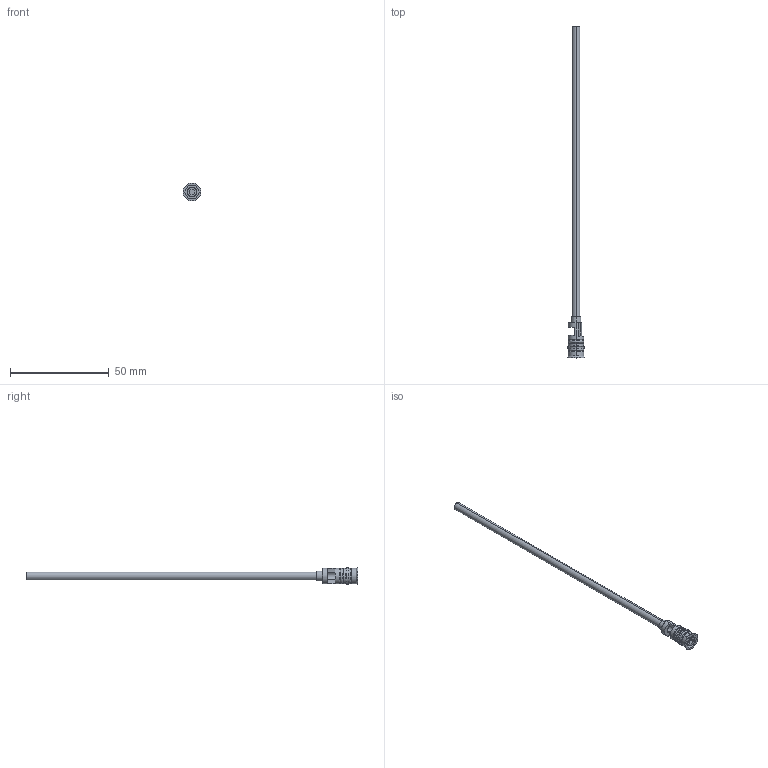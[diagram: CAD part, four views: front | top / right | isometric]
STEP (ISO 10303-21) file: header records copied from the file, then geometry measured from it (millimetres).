
FILE_DESCRIPTION (( 'STEP AP203' ), '1' );
FILE_NAME ('RF-8Fx150-4.STEP', '2015-11-25T08:54:27', ( 'Balzi' ), ( '' ), 'SwSTEP 2.0', 'SolidWorks 2015', '' );
FILE_SCHEMA (( 'CONFIG_CONTROL_DESIGN' ));
Length unit declared in the file: millimetre
Products named in the file (1): RF-8Fx150-4
Bounding box: 9 x 168 x 9 mm (x, y, z)
Volume: 1065.1 mm3; surface area: 4362.2 mm2
Topology: 1 solids, 1 shells, 77 faces, 176 edges, 108 vertices
Faces by surface type: cylinder 28, plane 25, torus 12, cone 12
Entity records: 2268 total; most frequent: DIRECTION 419, CARTESIAN_POINT 381, ORIENTED_EDGE 352, EDGE_CURVE 176, AXIS2_PLACEMENT_3D 170, VERTEX_POINT 108, CIRCLE 92, EDGE_LOOP 86
